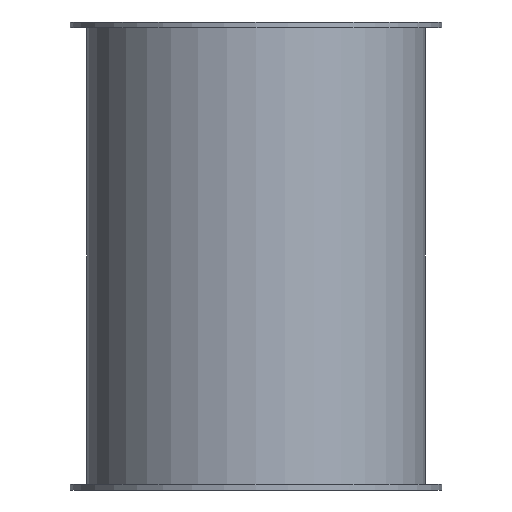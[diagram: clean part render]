
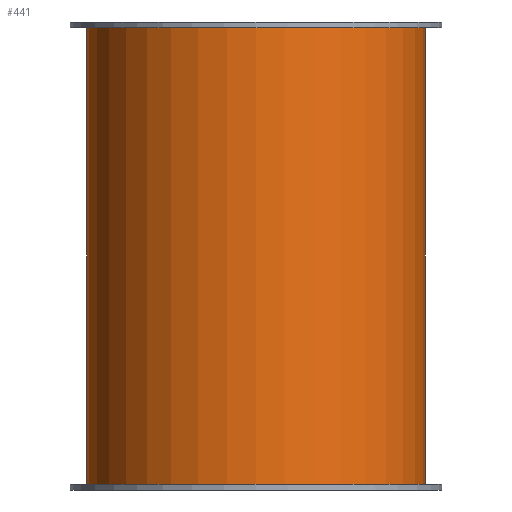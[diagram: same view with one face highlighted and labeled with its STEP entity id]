
A CAD part, front view. The second image highlights one B-rep face of the part: STEP entity #441.
In plain terms, the highlighted cylindrical face has radius 61.5 mm (diameter 123 mm), a full revolution.
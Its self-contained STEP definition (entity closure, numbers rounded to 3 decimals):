
#152=CARTESIAN_POINT('',(61.5,0.,168.0));
#153=VERTEX_POINT('',#152);
#154=CARTESIAN_POINT('',(0.0,0.0,168.0));
#155=DIRECTION('',(0.0,0.0,-1.0));
#156=DIRECTION('',(-1.0,0.0,0.0));
#157=AXIS2_PLACEMENT_3D('',#154,#155,#156);
#158=CIRCLE('',#157,61.5);
#159=EDGE_CURVE('',#153,#153,#158,.T.);
#200=CARTESIAN_POINT('',(-61.5,0.,2.0));
#201=VERTEX_POINT('',#200);
#202=CARTESIAN_POINT('',(0.0,0.0,2.0));
#203=DIRECTION('',(0.0,0.0,1.0));
#204=DIRECTION('',(-1.0,0.0,0.0));
#205=AXIS2_PLACEMENT_3D('',#202,#203,#204);
#206=CIRCLE('',#205,61.5);
#207=EDGE_CURVE('',#201,#201,#206,.T.);
#341=CARTESIAN_POINT('',(-51.5,33.615,85.));
#342=VERTEX_POINT('',#341);
#343=CARTESIAN_POINT('',(-51.5,33.615,85.));
#344=CARTESIAN_POINT('',(-51.5,33.615,81.417));
#345=CARTESIAN_POINT('',(-51.127,34.203,77.914));
#346=CARTESIAN_POINT('',(-49.726,36.209,71.162));
#347=CARTESIAN_POINT('',(-48.698,37.617,67.91));
#348=CARTESIAN_POINT('',(-46.064,40.799,61.728));
#349=CARTESIAN_POINT('',(-44.456,42.573,58.794));
#350=CARTESIAN_POINT('',(-40.757,46.127,53.346));
#351=CARTESIAN_POINT('',(-38.664,47.907,50.832));
#352=CARTESIAN_POINT('',(-34.262,51.142,46.43));
#353=CARTESIAN_POINT('',(-31.808,52.726,44.363));
#354=CARTESIAN_POINT('',(-26.38,55.64,40.647));
#355=CARTESIAN_POINT('',(-23.407,56.97,38.998));
#356=CARTESIAN_POINT('',(-17.099,59.169,36.301));
#357=CARTESIAN_POINT('',(-13.757,60.042,35.249));
#358=CARTESIAN_POINT('',(-6.924,61.207,33.849));
#359=CARTESIAN_POINT('',(-3.432,61.5,33.5));
#360=CARTESIAN_POINT('',(3.432,61.5,33.5));
#361=CARTESIAN_POINT('',(6.924,61.207,33.849));
#362=CARTESIAN_POINT('',(13.757,60.042,35.249));
#363=CARTESIAN_POINT('',(17.099,59.169,36.301));
#364=CARTESIAN_POINT('',(23.407,56.97,38.998));
#365=CARTESIAN_POINT('',(26.38,55.64,40.647));
#366=CARTESIAN_POINT('',(31.808,52.726,44.363));
#367=CARTESIAN_POINT('',(34.262,51.142,46.43));
#368=CARTESIAN_POINT('',(38.664,47.907,50.832));
#369=CARTESIAN_POINT('',(40.757,46.127,53.346));
#370=CARTESIAN_POINT('',(44.456,42.573,58.794));
#371=CARTESIAN_POINT('',(46.064,40.799,61.728));
#372=CARTESIAN_POINT('',(48.698,37.617,67.91));
#373=CARTESIAN_POINT('',(49.726,36.209,71.162));
#374=CARTESIAN_POINT('',(51.127,34.203,77.914));
#375=CARTESIAN_POINT('',(51.5,33.615,81.417));
#376=CARTESIAN_POINT('',(51.5,33.615,88.583));
#377=CARTESIAN_POINT('',(51.127,34.203,92.086));
#378=CARTESIAN_POINT('',(49.726,36.209,98.838));
#379=CARTESIAN_POINT('',(48.698,37.617,102.09));
#380=CARTESIAN_POINT('',(46.064,40.799,108.272));
#381=CARTESIAN_POINT('',(44.456,42.573,111.206));
#382=CARTESIAN_POINT('',(40.757,46.127,116.654));
#383=CARTESIAN_POINT('',(38.664,47.907,119.168));
#384=CARTESIAN_POINT('',(34.262,51.142,123.57));
#385=CARTESIAN_POINT('',(31.808,52.726,125.637));
#386=CARTESIAN_POINT('',(26.38,55.64,129.353));
#387=CARTESIAN_POINT('',(23.407,56.97,131.002));
#388=CARTESIAN_POINT('',(17.099,59.169,133.699));
#389=CARTESIAN_POINT('',(13.757,60.042,134.751));
#390=CARTESIAN_POINT('',(6.924,61.207,136.151));
#391=CARTESIAN_POINT('',(3.432,61.5,136.5));
#392=CARTESIAN_POINT('',(-3.432,61.5,136.5));
#393=CARTESIAN_POINT('',(-6.924,61.207,136.151));
#394=CARTESIAN_POINT('',(-13.757,60.042,134.751));
#395=CARTESIAN_POINT('',(-17.099,59.169,133.699));
#396=CARTESIAN_POINT('',(-23.407,56.97,131.002));
#397=CARTESIAN_POINT('',(-26.38,55.64,129.353));
#398=CARTESIAN_POINT('',(-31.808,52.726,125.637));
#399=CARTESIAN_POINT('',(-34.262,51.142,123.57));
#400=CARTESIAN_POINT('',(-38.664,47.907,119.168));
#401=CARTESIAN_POINT('',(-40.757,46.127,116.654));
#402=CARTESIAN_POINT('',(-44.456,42.573,111.206));
#403=CARTESIAN_POINT('',(-46.064,40.799,108.272));
#404=CARTESIAN_POINT('',(-48.698,37.617,102.09));
#405=CARTESIAN_POINT('',(-49.726,36.209,98.838));
#406=CARTESIAN_POINT('',(-51.127,34.203,92.086));
#407=CARTESIAN_POINT('',(-51.5,33.615,88.583));
#408=CARTESIAN_POINT('',(-51.5,33.615,85.));
#409=B_SPLINE_CURVE_WITH_KNOTS('',3,(#343,#344,#345,#346,#347,#348,#349,#350,#351,#352,#353,#354,#355,#356,#357,#358,#359,#360,#361,#362,#363,#364,#365,#366,#367,#368,#369,#370,#371,#372,#373,#374,#375,#376,#377,#378,#379,#380,#381,#382,#383,#384,#385,#386,#387,#388,#389,#390,#391,#392,#393,#394,#395,#396,#397,#398,#399,#400,#401,#402,#403,#404,#405,#406,#407,#408),.UNSPECIFIED.,.T.,.U.,(4,2,2,2,2,2,2,2,2,2,2,2,2,2,2,2,2,2,2,2,2,2,2,2,2,2,2,2,2,2,2,2,4),(0.0,1.075,2.15,3.224,4.299,5.329,6.358,7.388,8.418,9.447,10.477,11.507,12.536,13.611,14.686,15.761,16.835,17.91,18.985,20.06,21.135,22.164,23.194,24.224,25.253,26.283,27.312,28.342,29.372,30.447,31.521,32.596,33.671),.UNSPECIFIED.);
#410=EDGE_CURVE('',#342,#342,#409,.T.);
#427=CARTESIAN_POINT('',(0.0,0.0,0.0));
#428=DIRECTION('',(0.0,0.0,1.0));
#429=DIRECTION('',(-1.0,0.0,0.0));
#430=AXIS2_PLACEMENT_3D('',#427,#428,#429);
#431=CYLINDRICAL_SURFACE('',#430,61.5);
#432=ORIENTED_EDGE('',*,*,#159,.T.);
#433=EDGE_LOOP('',(#432));
#434=FACE_OUTER_BOUND('',#433,.T.);
#435=ORIENTED_EDGE('',*,*,#207,.T.);
#436=EDGE_LOOP('',(#435));
#437=FACE_BOUND('',#436,.T.);
#438=ORIENTED_EDGE('',*,*,#410,.T.);
#439=EDGE_LOOP('',(#438));
#440=FACE_BOUND('',#439,.T.);
#441=ADVANCED_FACE('',(#434,#437,#440),#431,.T.);
